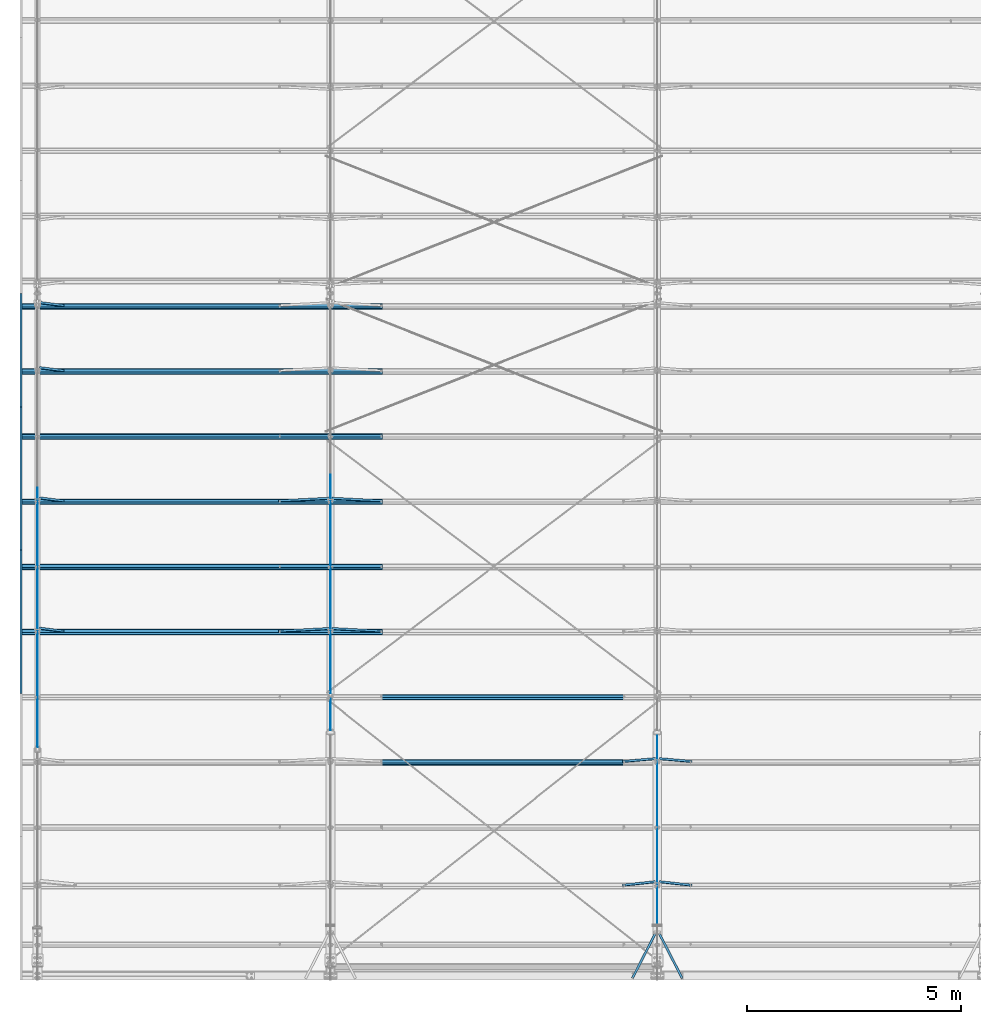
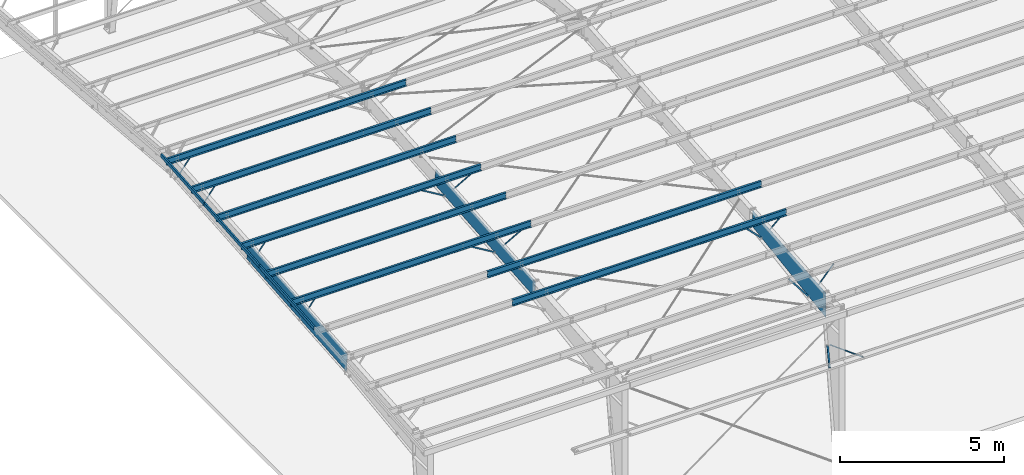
# One storey, part 7 of 185: 16 beams, 12 members, 28 elements without a shape of their own.
"""IFC2X3 building model written with IfcOpenShell, lengths in millimetres."""

from ifc_helpers import new_model, si_unit, frame, origin_with_axes, origin_2d_with_axis, place, context, subcontext, project, spatial, polyline, rectangle, outline, extrude, clip, halfspace, material, type_object, element, aggregate, save


model = new_model("IFC2X3")

# Units and contexts
model_context = context("Model", 3, precision=1e-05, world=origin_with_axes())
body_context = subcontext(model_context, "Body", "Model", "MODEL_VIEW")
ifc_project = project(units=[si_unit("LENGTHUNIT", "METRE", prefix="MILLI"), si_unit("AREAUNIT", "SQUARE_METRE"), si_unit("VOLUMEUNIT", "CUBIC_METRE"), si_unit("MASSUNIT", "GRAM", prefix="KILO"), si_unit("TIMEUNIT", "SECOND"), si_unit("PLANEANGLEUNIT", "RADIAN"), si_unit("SOLIDANGLEUNIT", "STERADIAN"), si_unit("THERMODYNAMICTEMPERATUREUNIT", "DEGREE_CELSIUS"), si_unit("LUMINOUSINTENSITYUNIT", "LUMEN")], contexts=[model_context])

# Site, building, storey
site_placement = place(None, origin_with_axes())
site = spatial("IfcSite", under=ifc_project, at=site_placement, Name="Undefined", CompositionType="ELEMENT")
building_placement = place(site_placement, origin_with_axes())
building = spatial("IfcBuilding", under=site, at=building_placement, Name="Undefined", CompositionType="ELEMENT")
storey_placement = place(building_placement, origin_with_axes())
storey = spatial("IfcBuildingStorey", under=building, at=storey_placement, Name="Undefined", CompositionType="ELEMENT", Elevation=0.0)

# Assembly, beam
assembly_1_placement = place(storey_placement, origin_with_axes())
assembly_1 = element("IfcElementAssembly", 1, at=assembly_1_placement, inside=storey, Name="Steel Assembly", AssemblyPlace="NOTDEFINED", PredefinedType="RIGID_FRAME")
ifc_material = material(Name="STEEL/55")
beam_type_1 = type_object("IfcBeamType", Name="8Z15", PredefinedType="NOTDEFINED")
beam_1_placement = place(assembly_1_placement, frame((7239.0, 5075.54054921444, 6417.00954585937), z_axis=(0.0, 0.0830454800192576, -0.996545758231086), x_axis=(1.0, 0.0, 0.0)))
beam_1 = element("IfcBeam", 2, at=beam_1_placement, type_object=beam_type_1, material=ifc_material, Name="Purlin", ObjectType="8Z15", context=body_context, shape_type="Clipping", body=[
    clip(clip(extrude(outline(polyline([(-75.75, 87.0100021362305), (-63.5, 101.599998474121), (1.5900000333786, 101.599998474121), (1.5900000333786, -98.4199981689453), (62.0200004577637, -98.4199981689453), (73.3099975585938, -84.9700012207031), (75.7399978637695, -87.0100021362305), (63.5, -101.599998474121), (-1.5900000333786, -101.599998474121), (-1.5900000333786, 98.4199981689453), (-62.0200004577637, 98.4199981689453), (-73.3099975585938, 84.9700012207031), (-75.75, 87.0100021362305)])), frame((8420.1, 0.0, 0.0), z_axis=(-1.0, 0.0, 0.0), x_axis=(0.0, -1.0, 0.0)), (0.0, 0.0, 1.0), 9626.6), halfspace(frame((8420.1, 2.91402102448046e-09, -101.600000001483), z_axis=(-1.0, 0.0, 0.0), x_axis=(0.0, 0.0, 1.0)), True)), halfspace(frame((-1206.5, 2.91402102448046e-09, -101.600000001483), z_axis=(-1.0, 0.0, 0.0), x_axis=(0.0, 0.0, 1.0)), False)),
])
aggregate(assembly_1, [beam_1])

assembly_2_placement = place(storey_placement, origin_with_axes())
assembly_2 = element("IfcElementAssembly", 3, at=assembly_2_placement, inside=storey, Name="Steel Assembly", AssemblyPlace="NOTDEFINED", PredefinedType="RIGID_FRAME")
beam_2_placement = place(assembly_2_placement, frame((7239.0, 6594.27628475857, 6543.57085741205), z_axis=(0.0, 0.0830454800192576, -0.996545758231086), x_axis=(1.0, 0.0, 0.0)))
beam_2 = element("IfcBeam", 4, at=beam_2_placement, type_object=beam_type_1, material=ifc_material, Name="Purlin", ObjectType="8Z15", context=body_context, shape_type="Clipping", body=[
    clip(clip(extrude(outline(polyline([(-75.75, 87.0100021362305), (-63.5, 101.599998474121), (1.5900000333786, 101.599998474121), (1.5900000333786, -98.4199981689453), (62.0200004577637, -98.4199981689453), (73.3099975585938, -84.9700012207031), (75.7399978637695, -87.0100021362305), (63.5, -101.599998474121), (-1.5900000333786, -101.599998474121), (-1.5900000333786, 98.4199981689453), (-62.0200004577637, 98.4199981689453), (-73.3099975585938, 84.9700012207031), (-75.75, 87.0100021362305)])), frame((8420.1, 0.0, 0.0), z_axis=(-1.0, 0.0, 0.0), x_axis=(0.0, -1.0, 0.0)), (0.0, 0.0, 1.0), 9626.6), halfspace(frame((8420.1, 2.91402102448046e-09, -101.600000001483), z_axis=(-1.0, 0.0, 0.0), x_axis=(0.0, 0.0, 1.0)), True)), halfspace(frame((-1206.5, 2.91402102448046e-09, -101.600000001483), z_axis=(-1.0, 0.0, 0.0), x_axis=(0.0, 0.0, 1.0)), False)),
])
aggregate(assembly_2, [beam_2])

assembly_3_placement = place(storey_placement, origin_with_axes())
assembly_3 = element("IfcElementAssembly", 5, at=assembly_3_placement, inside=storey, Name="Steel Assembly", AssemblyPlace="NOTDEFINED", PredefinedType="RIGID_FRAME")
beam_type_2 = type_object("IfcBeamType", Name="FB-", PredefinedType="NOTDEFINED")
beam_3_placement = place(assembly_3_placement, frame((14801.1290964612, 1116.84173202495, 4165.16497512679), z_axis=(0.0, 0.0, -1.0), x_axis=(-0.45556863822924, -0.890200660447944, 0.0)))
beam_3 = element("IfcBeam", 6, at=beam_3_placement, type_object=beam_type_2, material=ifc_material, Name="2X2 FLANGE BRACE X 60", ObjectType="FB-", context=body_context, shape_type="SweptSolid", body=[
    extrude(outline(polyline([(1.5900000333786, 1.59000003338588), (50.7999992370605, 1.59000003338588), (50.7999992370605, 7.27595761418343e-12), (0.0, 0.0), (0.0, 50.7999992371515), (1.5900000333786, 50.7999992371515), (1.5900000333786, 1.59000003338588)])), frame((1202.47881570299, 0.0, 0.0), z_axis=(-1.0, 0.0, 0.0), x_axis=(0.0, -1.0, 0.0)), (0.0, 0.0, 1.0), 1202.5),
])
aggregate(assembly_3, [beam_3])

assembly_4_placement = place(storey_placement, origin_with_axes())
assembly_4 = element("IfcElementAssembly", 7, at=assembly_4_placement, inside=storey, Name="Steel Assembly", AssemblyPlace="NOTDEFINED", PredefinedType="RIGID_FRAME")
beam_4_placement = place(assembly_4_placement, frame((14916.8709035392, 1116.84173202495, 4165.16497512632), z_axis=(-0.890200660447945, -0.455568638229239, 0.0), x_axis=(0.455568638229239, -0.890200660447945, 0.0)))
beam_4 = element("IfcBeam", 8, at=beam_4_placement, type_object=beam_type_2, material=ifc_material, Name="2X2 FLANGE BRACE X 60", ObjectType="FB-", context=body_context, shape_type="SweptSolid", body=[
    extrude(outline(polyline([(1.5900000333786, 1.59000003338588), (50.7999992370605, 1.59000003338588), (50.7999992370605, 7.27595761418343e-12), (0.0, 0.0), (0.0, 50.7999992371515), (1.5900000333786, 50.7999992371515), (1.5900000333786, 1.59000003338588)])), frame((1202.47881570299, 0.0, 0.0), z_axis=(-1.0, 0.0, 0.0), x_axis=(0.0, -1.0, 0.0)), (0.0, 0.0, 1.0), 1202.5),
])
aggregate(assembly_4, [beam_4])

# Assembly, member
assembly_5_placement = place(storey_placement, origin_with_axes())
assembly_5 = element("IfcElementAssembly", 9, at=assembly_5_placement, inside=storey, Name="Steel Assembly", AssemblyPlace="NOTDEFINED", PredefinedType="RIGID_FRAME")
member_type = type_object("IfcMemberType", Name="FB-", PredefinedType="NOTDEFINED")
member_1_placement = place(assembly_5_placement, frame((7200.91267955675, 8170.6312822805, 5978.70102518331), z_axis=(0.530152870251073, -0.070414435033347, 0.844973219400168), x_axis=(-0.847902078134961, -0.0440268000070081, 0.528321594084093)))
member_1 = element("IfcMember", 10, at=member_1_placement, type_object=member_type, material=ifc_material, Name="2X2 FLANGE BRACE X 48", ObjectType="FB-", context=body_context, shape_type="SweptSolid", body=[
    extrude(outline(polyline([(1.5900000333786, 1.59000003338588), (50.7999992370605, 1.59000003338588), (50.7999992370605, 7.27595761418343e-12), (0.0, 0.0), (0.0, 50.7999992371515), (1.5900000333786, 50.7999992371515), (1.5900000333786, 1.59000003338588)])), frame((1389.32938756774, -1.81898940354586e-12, 7.71232737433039e-14), z_axis=(-1.0, 0.0, 0.0), x_axis=(0.0, -1.0, 0.0)), (0.0, 0.0, 1.0), 1389.3),
])
aggregate(assembly_5, [member_1])

assembly_6_placement = place(storey_placement, origin_with_axes())
assembly_6 = element("IfcElementAssembly", 11, at=assembly_6_placement, inside=storey, Name="Steel Assembly", AssemblyPlace="NOTDEFINED", PredefinedType="RIGID_FRAME")
member_2_placement = place(assembly_6_placement, frame((7200.91267954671, 11208.1027534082, 6231.82364778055), z_axis=(0.530152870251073, -0.070414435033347, 0.844973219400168), x_axis=(-0.847902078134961, -0.0440268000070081, 0.528321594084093)))
member_2 = element("IfcMember", 12, at=member_2_placement, type_object=member_type, material=ifc_material, Name="2X2 FLANGE BRACE X 48", ObjectType="FB-", context=body_context, shape_type="SweptSolid", body=[
    extrude(outline(polyline([(1.5900000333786, 1.59000003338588), (50.7999992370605, 1.59000003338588), (50.7999992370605, 7.27595761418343e-12), (0.0, 0.0), (0.0, 50.7999992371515), (1.5900000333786, 50.7999992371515), (1.5900000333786, 1.59000003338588)])), frame((1389.32938756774, -1.81898940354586e-12, 7.71232737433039e-14), z_axis=(-1.0, 0.0, 0.0), x_axis=(0.0, -1.0, 0.0)), (0.0, 0.0, 1.0), 1389.3),
])
aggregate(assembly_6, [member_2])

assembly_7_placement = place(storey_placement, origin_with_axes())
assembly_7 = element("IfcElementAssembly", 13, at=assembly_7_placement, inside=storey, Name="Steel Assembly", AssemblyPlace="NOTDEFINED", PredefinedType="RIGID_FRAME")
member_3_placement = place(assembly_7_placement, frame((7277.08732044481, 8170.63128228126, 5978.70102518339), z_axis=(0.0, 0.996545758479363, 0.0830454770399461), x_axis=(0.847902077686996, -0.044026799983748, 0.528321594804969)))
member_3 = element("IfcMember", 14, at=member_3_placement, type_object=member_type, material=ifc_material, Name="2X2 FLANGE BRACE X 48", ObjectType="FB-", context=body_context, shape_type="SweptSolid", body=[
    extrude(outline(polyline([(1.5900000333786, 1.59000003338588), (50.7999992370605, 1.59000003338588), (50.7999992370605, 7.27595761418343e-12), (0.0, 0.0), (0.0, 50.7999992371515), (1.5900000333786, 50.7999992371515), (1.5900000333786, 1.59000003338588)])), frame((1389.32938756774, -1.81898940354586e-12, 7.71232737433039e-14), z_axis=(-1.0, 0.0, 0.0), x_axis=(0.0, -1.0, 0.0)), (0.0, 0.0, 1.0), 1389.3),
])
aggregate(assembly_7, [member_3])

assembly_8_placement = place(storey_placement, origin_with_axes())
assembly_8 = element("IfcElementAssembly", 15, at=assembly_8_placement, inside=storey, Name="Steel Assembly", AssemblyPlace="NOTDEFINED", PredefinedType="RIGID_FRAME")
member_4_placement = place(assembly_8_placement, frame((7277.08732045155, 11208.1027534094, 6231.82364778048), z_axis=(0.0, 0.996545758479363, 0.0830454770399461), x_axis=(0.847902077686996, -0.044026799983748, 0.528321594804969)))
member_4 = element("IfcMember", 16, at=member_4_placement, type_object=member_type, material=ifc_material, Name="2X2 FLANGE BRACE X 48", ObjectType="FB-", context=body_context, shape_type="SweptSolid", body=[
    extrude(outline(polyline([(1.5900000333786, 1.59000003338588), (50.7999992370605, 1.59000003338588), (50.7999992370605, 7.27595761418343e-12), (0.0, 0.0), (0.0, 50.7999992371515), (1.5900000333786, 50.7999992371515), (1.5900000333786, 1.59000003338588)])), frame((1389.32938756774, -1.81898940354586e-12, 7.71232737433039e-14), z_axis=(-1.0, 0.0, 0.0), x_axis=(0.0, -1.0, 0.0)), (0.0, 0.0, 1.0), 1389.3),
])
aggregate(assembly_8, [member_4])

assembly_9_placement = place(storey_placement, origin_with_axes())
assembly_9 = element("IfcElementAssembly", 17, at=assembly_9_placement, inside=storey, Name="Steel Assembly", AssemblyPlace="NOTDEFINED", PredefinedType="RIGID_FRAME")
member_5_placement = place(assembly_9_placement, frame((459.654333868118, 15772.6319752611, 6511.64339953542), z_axis=(0.0, 0.996545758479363, 0.0830454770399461), x_axis=(0.553483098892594, -0.0691652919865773, 0.829983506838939)))
member_5 = element("IfcMember", 18, at=member_5_placement, type_object=member_type, material=ifc_material, Name="2X2 FLANGE BRACE X 48", ObjectType="FB-", context=body_context, shape_type="SweptSolid", body=[
    extrude(outline(polyline([(1.5900000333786, 1.59000003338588), (50.7999992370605, 1.59000003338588), (50.7999992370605, 7.27595761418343e-12), (0.0, 0.0), (0.0, 50.7999992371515), (1.5900000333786, 50.7999992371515), (1.5900000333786, 1.59000003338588)])), frame((1022.90167929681, -5.11529800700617e-13, 1.83318501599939e-12), z_axis=(-1.0, 0.0, 0.0), x_axis=(0.0, -1.0, 0.0)), (0.0, 0.0, 1.0), 1022.9),
])
aggregate(assembly_9, [member_5])

assembly_10_placement = place(storey_placement, origin_with_axes())
assembly_10 = element("IfcElementAssembly", 19, at=assembly_10_placement, inside=storey, Name="Steel Assembly", AssemblyPlace="NOTDEFINED", PredefinedType="RIGID_FRAME")
member_6_placement = place(assembly_10_placement, frame((459.65433386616, 14253.8962396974, 6385.08208823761), z_axis=(0.0, 0.996545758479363, 0.0830454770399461), x_axis=(0.553483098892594, -0.0691652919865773, 0.829983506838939)))
member_6 = element("IfcMember", 20, at=member_6_placement, type_object=member_type, material=ifc_material, Name="2X2 FLANGE BRACE X 48", ObjectType="FB-", context=body_context, shape_type="SweptSolid", body=[
    extrude(outline(polyline([(1.5900000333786, 1.59000003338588), (50.7999992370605, 1.59000003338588), (50.7999992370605, 7.27595761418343e-12), (0.0, 0.0), (0.0, 50.7999992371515), (1.5900000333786, 50.7999992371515), (1.5900000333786, 1.59000003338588)])), frame((1022.90167929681, -5.11529800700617e-13, 1.83318501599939e-12), z_axis=(-1.0, 0.0, 0.0), x_axis=(0.0, -1.0, 0.0)), (0.0, 0.0, 1.0), 1022.9),
])
aggregate(assembly_10, [member_6])

assembly_11_placement = place(storey_placement, origin_with_axes())
assembly_11 = element("IfcElementAssembly", 21, at=assembly_11_placement, inside=storey, Name="Steel Assembly", AssemblyPlace="NOTDEFINED", PredefinedType="RIGID_FRAME")
member_7_placement = place(assembly_11_placement, frame((459.65433386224, 11216.4247685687, 6131.95946563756), z_axis=(0.0, 0.996545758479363, 0.0830454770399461), x_axis=(0.553483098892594, -0.0691652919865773, 0.829983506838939)))
member_7 = element("IfcMember", 22, at=member_7_placement, type_object=member_type, material=ifc_material, Name="2X2 FLANGE BRACE X 48", ObjectType="FB-", context=body_context, shape_type="SweptSolid", body=[
    extrude(outline(polyline([(1.5900000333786, 1.59000003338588), (50.7999992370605, 1.59000003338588), (50.7999992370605, 7.27595761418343e-12), (0.0, 0.0), (0.0, 50.7999992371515), (1.5900000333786, 50.7999992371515), (1.5900000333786, 1.59000003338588)])), frame((1022.90167929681, -5.11529800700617e-13, 1.83318501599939e-12), z_axis=(-1.0, 0.0, 0.0), x_axis=(0.0, -1.0, 0.0)), (0.0, 0.0, 1.0), 1022.9),
])
aggregate(assembly_11, [member_7])

assembly_12_placement = place(storey_placement, origin_with_axes())
assembly_12 = element("IfcElementAssembly", 23, at=assembly_12_placement, inside=storey, Name="Steel Assembly", AssemblyPlace="NOTDEFINED", PredefinedType="RIGID_FRAME")
member_8_placement = place(assembly_12_placement, frame((459.654333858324, 8178.95329744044, 5878.8368430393), z_axis=(0.0, 0.996545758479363, 0.0830454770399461), x_axis=(0.553483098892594, -0.0691652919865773, 0.829983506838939)))
member_8 = element("IfcMember", 24, at=member_8_placement, type_object=member_type, material=ifc_material, Name="2X2 FLANGE BRACE X 48", ObjectType="FB-", context=body_context, shape_type="SweptSolid", body=[
    extrude(outline(polyline([(1.5900000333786, 1.59000003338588), (50.7999992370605, 1.59000003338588), (50.7999992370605, 7.27595761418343e-12), (0.0, 0.0), (0.0, 50.7999992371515), (1.5900000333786, 50.7999992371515), (1.5900000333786, 1.59000003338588)])), frame((1022.90167929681, -5.11529800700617e-13, 1.83318501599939e-12), z_axis=(-1.0, 0.0, 0.0), x_axis=(0.0, -1.0, 0.0)), (0.0, 0.0, 1.0), 1022.9),
])
aggregate(assembly_12, [member_8])

assembly_13_placement = place(storey_placement, origin_with_axes())
assembly_13 = element("IfcElementAssembly", 25, at=assembly_13_placement, inside=storey, Name="Steel Assembly", AssemblyPlace="NOTDEFINED", PredefinedType="RIGID_FRAME")
member_9_placement = place(assembly_13_placement, frame((14811.5453898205, 5136.88686901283, 5680.85370823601), z_axis=(0.719276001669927, -0.0576937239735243, 0.692324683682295), x_axis=(-0.69472443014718, -0.0597326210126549, 0.716791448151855)))
member_9 = element("IfcMember", 26, at=member_9_placement, type_object=member_type, material=ifc_material, Name="2X2 FLANGE BRACE X 48", ObjectType="FB-", context=body_context, shape_type="SweptSolid", body=[
    extrude(outline(polyline([(1.5900000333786, 1.59000003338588), (50.7999992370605, 1.59000003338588), (50.7999992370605, 7.27595761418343e-12), (0.0, 0.0), (0.0, 50.7999992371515), (1.5900000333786, 50.7999992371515), (1.5900000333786, 1.59000003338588)])), frame((1098.50894489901, 0.0, -1.21958992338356e-13), z_axis=(-1.0, 0.0, 0.0), x_axis=(0.0, -1.0, 0.0)), (0.0, 0.0, 1.0), 1098.5),
])
aggregate(assembly_13, [member_9])

assembly_14_placement = place(storey_placement, origin_with_axes())
assembly_14 = element("IfcElementAssembly", 27, at=assembly_14_placement, inside=storey, Name="Steel Assembly", AssemblyPlace="NOTDEFINED", PredefinedType="RIGID_FRAME")
member_10_placement = place(assembly_14_placement, frame((14906.4546101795, 5136.8868690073, 5680.8537082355), z_axis=(0.0, 0.996545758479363, 0.0830454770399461), x_axis=(0.69472443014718, -0.0597326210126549, 0.716791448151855)))
member_10 = element("IfcMember", 28, at=member_10_placement, type_object=member_type, material=ifc_material, Name="2X2 FLANGE BRACE X 48", ObjectType="FB-", context=body_context, shape_type="SweptSolid", body=[
    extrude(outline(polyline([(1.5900000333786, 1.59000003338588), (50.7999992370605, 1.59000003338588), (50.7999992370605, 7.27595761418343e-12), (0.0, 0.0), (0.0, 50.7999992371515), (1.5900000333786, 50.7999992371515), (1.5900000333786, 1.59000003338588)])), frame((1098.50894489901, 0.0, -1.21958992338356e-13), z_axis=(-1.0, 0.0, 0.0), x_axis=(0.0, -1.0, 0.0)), (0.0, 0.0, 1.0), 1098.5),
])
aggregate(assembly_14, [member_10])

assembly_15_placement = place(storey_placement, origin_with_axes())
assembly_15 = element("IfcElementAssembly", 29, at=assembly_15_placement, inside=storey, Name="Steel Assembly", AssemblyPlace="NOTDEFINED", PredefinedType="RIGID_FRAME")
member_11_placement = place(assembly_15_placement, frame((14807.4958275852, 2267.38595486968, 5247.22341530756), z_axis=(0.793088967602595, -0.0505834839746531, 0.60700181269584), x_axis=(-0.609105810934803, -0.0658624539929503, 0.790349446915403)))
member_11 = element("IfcMember", 30, at=member_11_placement, type_object=member_type, material=ifc_material, Name="2X2 FLANGE BRACE X 60", ObjectType="FB-", context=body_context, shape_type="SweptSolid", body=[
    extrude(outline(polyline([(1.5900000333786, 1.59000003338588), (50.7999992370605, 1.59000003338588), (50.7999992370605, 7.27595761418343e-12), (0.0, 0.0), (0.0, 50.7999992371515), (1.5900000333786, 50.7999992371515), (1.5900000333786, 1.59000003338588)])), frame((1245.77956857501, 4.37458686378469e-13, 1.95729871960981e-12), z_axis=(-1.0, 0.0, 0.0), x_axis=(0.0, -1.0, 0.0)), (0.0, 0.0, 1.0), 1245.8),
])
aggregate(assembly_15, [member_11])

assembly_16_placement = place(storey_placement, origin_with_axes())
assembly_16 = element("IfcElementAssembly", 31, at=assembly_16_placement, inside=storey, Name="Steel Assembly", AssemblyPlace="NOTDEFINED", PredefinedType="RIGID_FRAME")
member_12_placement = place(assembly_16_placement, frame((14910.5041724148, 2267.38595488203, 5247.22341530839), z_axis=(0.0, 0.996545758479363, 0.0830454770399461), x_axis=(0.609105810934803, -0.0658624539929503, 0.790349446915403)))
member_12 = element("IfcMember", 32, at=member_12_placement, type_object=member_type, material=ifc_material, Name="2X2 FLANGE BRACE X 60", ObjectType="FB-", context=body_context, shape_type="SweptSolid", body=[
    extrude(outline(polyline([(1.5900000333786, 1.59000003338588), (50.7999992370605, 1.59000003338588), (50.7999992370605, 7.27595761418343e-12), (0.0, 0.0), (0.0, 50.7999992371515), (1.5900000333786, 50.7999992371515), (1.5900000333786, 1.59000003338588)])), frame((1245.77956857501, 4.37458686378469e-13, 1.95729871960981e-12), z_axis=(-1.0, 0.0, 0.0), x_axis=(0.0, -1.0, 0.0)), (0.0, 0.0, 1.0), 1245.8),
])
aggregate(assembly_16, [member_12])

# Assembly, beam
assembly_17_placement = place(storey_placement, origin_with_axes())
assembly_17 = element("IfcElementAssembly", 33, at=assembly_17_placement, inside=storey, Name="Steel Assembly", AssemblyPlace="NOTDEFINED", PredefinedType="RIGID_FRAME")
beam_type_3 = type_object("IfcBeamType", Name="RA-1", PredefinedType="NOTDEFINED")
beam_5_placement = place(assembly_17_placement, frame((0.0, 16002.0004243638, 7429.50003804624), z_axis=(0.0, 0.0830701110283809, -0.99654370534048), x_axis=(0.0, -0.99654370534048, -0.0830701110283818)))
beam_5 = element("IfcBeam", 34, at=beam_5_placement, type_object=beam_type_3, material=ifc_material, Name="STANDARD RAKE ANGLE", ObjectType="RA-1", context=body_context, shape_type="SweptSolid", body=[
    extrude(outline(polyline([(0.0, 0.0), (50.7999992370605, 7.27595761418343e-12), (50.7999992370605, -1.51999998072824), (-1.51999998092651, -1.51999998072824), (-1.51999998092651, 127.000000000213), (0.0, 127.000000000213), (0.0, 0.0)])), frame((2646.26680182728, 0.0, 0.0), z_axis=(-1.0, 0.0, 0.0), x_axis=(0.0, -1.0, 0.0)), (0.0, 0.0, 1.0), 2646.3),
])
aggregate(assembly_17, [beam_5])

assembly_18_placement = place(storey_placement, origin_with_axes())
assembly_18 = element("IfcElementAssembly", 35, at=assembly_18_placement, inside=storey, Name="Steel Assembly", AssemblyPlace="NOTDEFINED", PredefinedType="RIGID_FRAME")
beam_6_placement = place(assembly_18_placement, frame((0.0, 13364.8799002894, 7209.67436231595), z_axis=(0.0, 0.0830701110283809, -0.99654370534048), x_axis=(0.0, -0.99654370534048, -0.0830701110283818)))
beam_6 = element("IfcBeam", 36, at=beam_6_placement, type_object=beam_type_3, material=ifc_material, Name="STANDARD RAKE ANGLE", ObjectType="RA-1", context=body_context, shape_type="SweptSolid", body=[
    extrude(outline(polyline([(0.0, 0.0), (50.7999992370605, 7.27595761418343e-12), (50.7999992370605, -1.51999998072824), (-1.51999998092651, -1.51999998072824), (-1.51999998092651, 127.000000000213), (0.0, 127.000000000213), (0.0, 0.0)])), frame((3352.80000002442, 0.0, -1.86551885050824e-12), z_axis=(-1.0, 0.0, 0.0), x_axis=(0.0, -1.0, 0.0)), (0.0, 0.0, 1.0), 3352.8),
])
aggregate(assembly_18, [beam_6])

assembly_19_placement = place(storey_placement, origin_with_axes())
assembly_19 = element("IfcElementAssembly", 37, at=assembly_19_placement, inside=storey, Name="Steel Assembly", AssemblyPlace="NOTDEFINED", PredefinedType="RIGID_FRAME")
beam_7_placement = place(assembly_19_placement, frame((0.0, 10023.6681648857, 6931.15689571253), z_axis=(0.0, 0.0830701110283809, -0.99654370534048), x_axis=(0.0, -0.99654370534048, -0.0830701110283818)))
beam_7 = element("IfcBeam", 38, at=beam_7_placement, type_object=beam_type_3, material=ifc_material, Name="STANDARD RAKE ANGLE", ObjectType="RA-1", context=body_context, shape_type="SweptSolid", body=[
    extrude(outline(polyline([(0.0, 0.0), (50.7999992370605, 7.27595761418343e-12), (50.7999992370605, -1.51999998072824), (-1.51999998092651, -1.51999998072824), (-1.51999998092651, 127.000000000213), (0.0, 127.000000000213), (0.0, 0.0)])), frame((3352.80000002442, 0.0, -1.86551885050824e-12), z_axis=(-1.0, 0.0, 0.0), x_axis=(0.0, -1.0, 0.0)), (0.0, 0.0, 1.0), 3352.8),
])
aggregate(assembly_19, [beam_7])

assembly_20_placement = place(storey_placement, origin_with_axes())
assembly_20 = element("IfcElementAssembly", 39, at=assembly_20_placement, inside=storey, Name="Steel Assembly", AssemblyPlace="NOTDEFINED", PredefinedType="RIGID_FRAME")
beam_type_4 = type_object("IfcBeamType", Name="8Z13", PredefinedType="NOTDEFINED")
beam_8_placement = place(assembly_20_placement, frame((4.02348492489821e-22, 8113.01202030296, 6670.13216896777), z_axis=(0.0, 0.0830454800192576, -0.996545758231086), x_axis=(1.0, 0.0, 0.0)))
beam_8 = element("IfcBeam", 40, at=beam_8_placement, type_object=beam_type_4, material=ifc_material, Name="Purlin", ObjectType="8Z13", context=body_context, shape_type="Clipping", body=[
    clip(clip(extrude(outline(polyline([(-62.0200004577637, 98.4199981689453), (-73.3099975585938, 84.9700012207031), (-75.75, 87.0100021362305), (-63.5, 101.599998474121), (1.5900000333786, 101.599998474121), (1.5900000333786, -98.4199981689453), (62.0200004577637, -98.4199981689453), (73.3099975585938, -84.9700012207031), (75.7399978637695, -87.0100021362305), (63.5, -101.599998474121), (-1.5900000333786, -101.599998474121), (-1.5900000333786, 98.4199981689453), (-62.0200004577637, 98.4199981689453)])), frame((8445.5, 0.0, 0.0), z_axis=(-1.0, 0.0, 0.0), x_axis=(0.0, -1.0, 0.0)), (0.0, 0.0, 1.0), 8432.8), halfspace(frame((8445.5, 2.91402102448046e-09, -101.600000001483), z_axis=(-1.0, 0.0, 0.0), x_axis=(0.0, 0.0, 1.0)), True)), halfspace(frame((12.7000000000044, 2.91402102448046e-09, -101.600000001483), z_axis=(-1.0, 0.0, 0.0), x_axis=(0.0, 0.0, 1.0)), False)),
])
aggregate(assembly_20, [beam_8])

assembly_21_placement = place(storey_placement, origin_with_axes())
assembly_21 = element("IfcElementAssembly", 41, at=assembly_21_placement, inside=storey, Name="Steel Assembly", AssemblyPlace="NOTDEFINED", PredefinedType="RIGID_FRAME")
beam_9_placement = place(assembly_21_placement, frame((3.31047743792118e-22, 9631.74775584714, 6796.69348052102), z_axis=(0.0, 0.0830454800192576, -0.996545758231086), x_axis=(1.0, 0.0, 0.0)))
beam_9 = element("IfcBeam", 42, at=beam_9_placement, type_object=beam_type_4, material=ifc_material, Name="Purlin", ObjectType="8Z13", context=body_context, shape_type="Clipping", body=[
    clip(clip(extrude(outline(polyline([(-62.0200004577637, 98.4199981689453), (-73.3099975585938, 84.9700012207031), (-75.75, 87.0100021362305), (-63.5, 101.599998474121), (1.5900000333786, 101.599998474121), (1.5900000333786, -98.4199981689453), (62.0200004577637, -98.4199981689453), (73.3099975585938, -84.9700012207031), (75.7399978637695, -87.0100021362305), (63.5, -101.599998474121), (-1.5900000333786, -101.599998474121), (-1.5900000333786, 98.4199981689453), (-62.0200004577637, 98.4199981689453)])), frame((8445.5, 0.0, 0.0), z_axis=(-1.0, 0.0, 0.0), x_axis=(0.0, -1.0, 0.0)), (0.0, 0.0, 1.0), 8432.8), halfspace(frame((8445.5, 2.91402102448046e-09, -101.600000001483), z_axis=(-1.0, 0.0, 0.0), x_axis=(0.0, 0.0, 1.0)), True)), halfspace(frame((12.7000000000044, 2.91402102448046e-09, -101.600000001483), z_axis=(-1.0, 0.0, 0.0), x_axis=(0.0, 0.0, 1.0)), False)),
])
aggregate(assembly_21, [beam_9])

assembly_22_placement = place(storey_placement, origin_with_axes())
assembly_22 = element("IfcElementAssembly", 43, at=assembly_22_placement, inside=storey, Name="Steel Assembly", AssemblyPlace="NOTDEFINED", PredefinedType="RIGID_FRAME")
beam_10_placement = place(assembly_22_placement, frame((2.56854632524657e-22, 11150.4834913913, 6923.25479207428), z_axis=(0.0, 0.0830454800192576, -0.996545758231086), x_axis=(1.0, 0.0, 0.0)))
beam_10 = element("IfcBeam", 44, at=beam_10_placement, type_object=beam_type_4, material=ifc_material, Name="Purlin", ObjectType="8Z13", context=body_context, shape_type="Clipping", body=[
    clip(clip(extrude(outline(polyline([(-62.0200004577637, 98.4199981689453), (-73.3099975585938, 84.9700012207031), (-75.75, 87.0100021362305), (-63.5, 101.599998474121), (1.5900000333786, 101.599998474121), (1.5900000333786, -98.4199981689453), (62.0200004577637, -98.4199981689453), (73.3099975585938, -84.9700012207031), (75.7399978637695, -87.0100021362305), (63.5, -101.599998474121), (-1.5900000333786, -101.599998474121), (-1.5900000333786, 98.4199981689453), (-62.0200004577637, 98.4199981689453)])), frame((8445.5, 0.0, 0.0), z_axis=(-1.0, 0.0, 0.0), x_axis=(0.0, -1.0, 0.0)), (0.0, 0.0, 1.0), 8432.8), halfspace(frame((8445.5, 2.91402102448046e-09, -101.600000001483), z_axis=(-1.0, 0.0, 0.0), x_axis=(0.0, 0.0, 1.0)), True)), halfspace(frame((12.7000000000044, 2.91402102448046e-09, -101.600000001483), z_axis=(-1.0, 0.0, 0.0), x_axis=(0.0, 0.0, 1.0)), False)),
])
aggregate(assembly_22, [beam_10])

assembly_23_placement = place(storey_placement, origin_with_axes())
assembly_23 = element("IfcElementAssembly", 45, at=assembly_23_placement, inside=storey, Name="Steel Assembly", AssemblyPlace="NOTDEFINED", PredefinedType="RIGID_FRAME")
beam_11_placement = place(assembly_23_placement, frame((-1.10272595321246e-14, 12669.2192269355, 7049.81610362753), z_axis=(0.0, 0.0830454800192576, -0.996545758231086), x_axis=(1.0, 0.0, 0.0)))
beam_11 = element("IfcBeam", 46, at=beam_11_placement, type_object=beam_type_4, material=ifc_material, Name="Purlin", ObjectType="8Z13", context=body_context, shape_type="Clipping", body=[
    clip(clip(extrude(outline(polyline([(-62.0200004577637, 98.4199981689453), (-73.3099975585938, 84.9700012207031), (-75.75, 87.0100021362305), (-63.5, 101.599998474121), (1.5900000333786, 101.599998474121), (1.5900000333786, -98.4199981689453), (62.0200004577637, -98.4199981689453), (73.3099975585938, -84.9700012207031), (75.7399978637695, -87.0100021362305), (63.5, -101.599998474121), (-1.5900000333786, -101.599998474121), (-1.5900000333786, 98.4199981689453), (-62.0200004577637, 98.4199981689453)])), frame((8445.5, 0.0, 0.0), z_axis=(-1.0, 0.0, 0.0), x_axis=(0.0, -1.0, 0.0)), (0.0, 0.0, 1.0), 8432.8), halfspace(frame((8445.5, 2.91402102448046e-09, -101.600000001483), z_axis=(-1.0, 0.0, 0.0), x_axis=(0.0, 0.0, 1.0)), True)), halfspace(frame((12.7000000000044, 2.91402102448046e-09, -101.600000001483), z_axis=(-1.0, 0.0, 0.0), x_axis=(0.0, 0.0, 1.0)), False)),
])
aggregate(assembly_23, [beam_11])

assembly_24_placement = place(storey_placement, origin_with_axes())
assembly_24 = element("IfcElementAssembly", 47, at=assembly_24_placement, inside=storey, Name="Steel Assembly", AssemblyPlace="NOTDEFINED", PredefinedType="RIGID_FRAME")
beam_12_placement = place(assembly_24_placement, frame((1.03117699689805e-22, 14187.9549624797, 7176.37741518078), z_axis=(0.0, 0.0830454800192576, -0.996545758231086), x_axis=(1.0, 0.0, 0.0)))
beam_12 = element("IfcBeam", 48, at=beam_12_placement, type_object=beam_type_4, material=ifc_material, Name="Purlin", ObjectType="8Z13", context=body_context, shape_type="Clipping", body=[
    clip(clip(extrude(outline(polyline([(-62.0200004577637, 98.4199981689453), (-73.3099975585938, 84.9700012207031), (-75.75, 87.0100021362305), (-63.5, 101.599998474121), (1.5900000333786, 101.599998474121), (1.5900000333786, -98.4199981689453), (62.0200004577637, -98.4199981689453), (73.3099975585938, -84.9700012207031), (75.7399978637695, -87.0100021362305), (63.5, -101.599998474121), (-1.5900000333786, -101.599998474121), (-1.5900000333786, 98.4199981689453), (-62.0200004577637, 98.4199981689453)])), frame((8445.5, 0.0, 0.0), z_axis=(-1.0, 0.0, 0.0), x_axis=(0.0, -1.0, 0.0)), (0.0, 0.0, 1.0), 8432.8), halfspace(frame((8445.5, 2.91402102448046e-09, -101.600000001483), z_axis=(-1.0, 0.0, 0.0), x_axis=(0.0, 0.0, 1.0)), True)), halfspace(frame((12.7000000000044, 2.91402102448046e-09, -101.600000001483), z_axis=(-1.0, 0.0, 0.0), x_axis=(0.0, 0.0, 1.0)), False)),
])
aggregate(assembly_24, [beam_12])

assembly_25_placement = place(storey_placement, origin_with_axes())
assembly_25 = element("IfcElementAssembly", 49, at=assembly_25_placement, inside=storey, Name="Steel Assembly", AssemblyPlace="NOTDEFINED", PredefinedType="RIGID_FRAME")
beam_13_placement = place(assembly_25_placement, frame((-1.36728298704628e-14, 15706.6906980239, 7302.93872673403), z_axis=(0.0, 0.0830454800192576, -0.996545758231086), x_axis=(1.0, 0.0, 0.0)))
beam_13 = element("IfcBeam", 50, at=beam_13_placement, type_object=beam_type_4, material=ifc_material, Name="Purlin", ObjectType="8Z13", context=body_context, shape_type="Clipping", body=[
    clip(clip(extrude(outline(polyline([(-62.0200004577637, 98.4199981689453), (-73.3099975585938, 84.9700012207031), (-75.75, 87.0100021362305), (-63.5, 101.599998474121), (1.5900000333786, 101.599998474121), (1.5900000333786, -98.4199981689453), (62.0200004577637, -98.4199981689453), (73.3099975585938, -84.9700012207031), (75.7399978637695, -87.0100021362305), (63.5, -101.599998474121), (-1.5900000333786, -101.599998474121), (-1.5900000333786, 98.4199981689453), (-62.0200004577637, 98.4199981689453)])), frame((8445.5, 0.0, 0.0), z_axis=(-1.0, 0.0, 0.0), x_axis=(0.0, -1.0, 0.0)), (0.0, 0.0, 1.0), 8432.8), halfspace(frame((8445.5, 2.91402102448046e-09, -101.600000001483), z_axis=(-1.0, 0.0, 0.0), x_axis=(0.0, 0.0, 1.0)), True)), halfspace(frame((12.7000000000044, 2.91402102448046e-09, -101.600000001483), z_axis=(-1.0, 0.0, 0.0), x_axis=(0.0, 0.0, 1.0)), False)),
])
aggregate(assembly_25, [beam_13])

assembly_26_placement = place(storey_placement, origin_with_axes())
assembly_26 = element("IfcElementAssembly", 51, at=assembly_26_placement, inside=storey, Name="Steel Assembly", AssemblyPlace="NOTDEFINED", PredefinedType="RIGID_FRAME")
beam_type_5 = type_object("IfcBeamType", Name="PL1/8\"X28\"", PredefinedType="NOTDEFINED")
beam_14_placement = place(assembly_26_placement, frame((406.400000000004, 11447.9660130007, 6482.88823695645), z_axis=(0.0, -0.0830454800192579, 0.996545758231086), x_axis=(0.0, -0.996545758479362, -0.0830454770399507)))
beam_14 = element("IfcBeam", 52, at=beam_14_placement, type_object=beam_type_5, material=ifc_material, Name="Web", ObjectType="PL1/8\"X28\"", context=body_context, shape_type="Clipping", body=[
    clip(extrude(rectangle(XDim=3.4163, YDim=711.19999999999, at=origin_2d_with_axis()), frame((6095.99999991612, 0.0, -8.45989944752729e-14), z_axis=(-1.0, 0.0, 0.0), x_axis=(0.0, -1.0, 0.0)), (0.0, 0.0, 1.0), 6096.0), halfspace(frame((6095.99999993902, 0.0, 355.600001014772), z_axis=(1.0, 0.0, 0.0), x_axis=(0.0, 1.0, 0.0)), False)),
])
aggregate(assembly_26, [beam_14])

assembly_27_placement = place(storey_placement, origin_with_axes())
assembly_27 = element("IfcElementAssembly", 53, at=assembly_27_placement, inside=storey, Name="Steel Assembly", AssemblyPlace="NOTDEFINED", PredefinedType="RIGID_FRAME")
beam_type_6 = type_object("IfcBeamType", Name="PL3/16\"X36\"", PredefinedType="NOTDEFINED")
beam_15_placement = place(assembly_27_placement, frame((14859.0, 1246.21677618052, 5529.25070197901), z_axis=(0.0, -0.0830454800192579, 0.996545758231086), x_axis=(0.0, 0.996545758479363, 0.0830454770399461)))
beam_15 = element("IfcBeam", 54, at=beam_15_placement, type_object=beam_type_6, material=ifc_material, Name="Web", ObjectType="PL3/16\"X36\"", context=body_context, shape_type="Clipping", body=[
    clip(clip(clip(extrude(rectangle(XDim=4.762, YDim=914.4, at=origin_2d_with_axis()), frame((4533.51247768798, 0.0, 9.72409825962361e-13), z_axis=(-1.0, 0.0, 0.0), x_axis=(0.0, -1.0, 0.0)), (0.0, 0.0, 1.0), 4585.0), halfspace(frame((-0.0884751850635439, 2.38124999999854, -457.200000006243), z_axis=(0.0668939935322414, 0.0, -0.997760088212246), x_axis=(0.0, -1.0, 0.0)), False)), halfspace(frame((4533.51247768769, 0.0, 457.199999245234), z_axis=(-1.0, 0.0, 0.0), x_axis=(0.0, -1.0, 0.0)), True)), halfspace(frame((76.0025415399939, 0.0, 455.892199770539), z_axis=(-0.996545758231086, 0.0, 0.0830454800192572), x_axis=(0.0, -1.0, 0.0)), False)),
])
aggregate(assembly_27, [beam_15])

assembly_28_placement = place(storey_placement, origin_with_axes())
assembly_28 = element("IfcElementAssembly", 55, at=assembly_28_placement, inside=storey, Name="Steel Assembly", AssemblyPlace="NOTDEFINED", PredefinedType="RIGID_FRAME")
beam_type_7 = type_object("IfcBeamType", Name="PL1/8\"X24\"", PredefinedType="NOTDEFINED")
beam_16_placement = place(assembly_28_placement, frame((7239.0, 5773.67992183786, 6059.40140337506), z_axis=(0.0, -0.0830454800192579, 0.996545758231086), x_axis=(0.0, 0.996545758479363, 0.0830454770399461)))
beam_16 = element("IfcBeam", 56, at=beam_16_placement, type_object=beam_type_7, material=ifc_material, Name="Web", ObjectType="PL1/8\"X24\"", context=body_context, shape_type="Clipping", body=[
    clip(extrude(rectangle(XDim=3.4163, YDim=609.59999999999, at=origin_2d_with_axis()), frame((6095.99999991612, 0.0, -8.45989944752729e-14), z_axis=(-1.0, 0.0, 0.0), x_axis=(0.0, -1.0, 0.0)), (0.0, 0.0, 1.0), 6096.0), halfspace(frame((2.96531652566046e-08, 0.0, 304.799999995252), z_axis=(-1.0, 0.0, 0.0), x_axis=(0.0, -1.0, 0.0)), False)),
])
aggregate(assembly_28, [beam_16])

save(model, "model.ifc")
